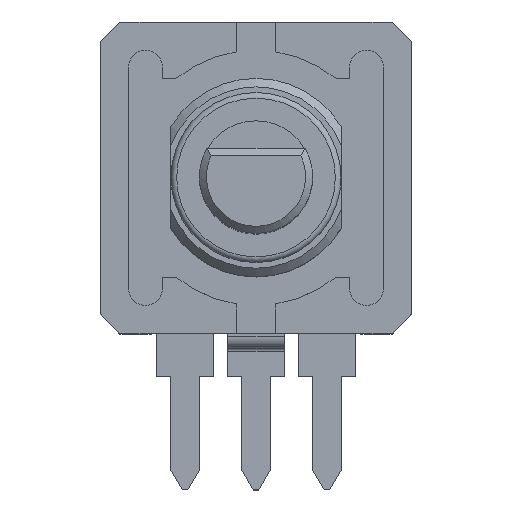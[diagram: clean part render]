
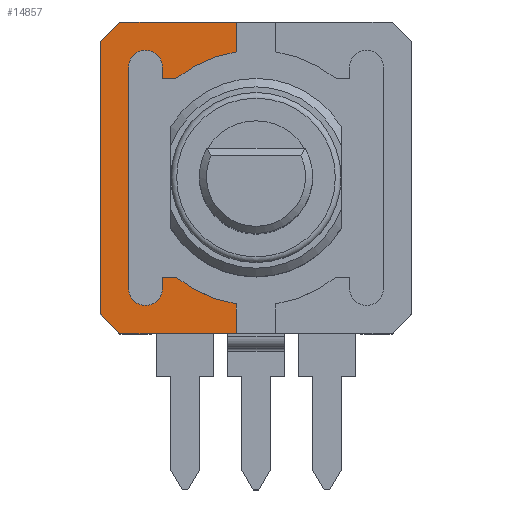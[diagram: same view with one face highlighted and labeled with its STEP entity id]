
A CAD part, top view. The second image highlights one B-rep face of the part: STEP entity #14857.
In plain terms, the highlighted planar face has unit normal (0, 0, 1).
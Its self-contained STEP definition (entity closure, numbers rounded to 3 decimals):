
#463=CIRCLE('',#15941,4.5);
#465=CIRCLE('',#15946,0.6);
#467=CIRCLE('',#15950,0.6);
#469=CIRCLE('',#15955,4.5);
#1323=FACE_OUTER_BOUND('',#2092,.T.);
#2092=EDGE_LOOP('',(#12754,#12755,#12756,#12757,#12758,#12759,#12760,#12761,
#12762,#12763,#12764,#12765,#12766,#12767,#12768,#12769));
#3612=LINE('',#23698,#5238);
#3634=LINE('',#23755,#5260);
#3713=LINE('',#23947,#5339);
#3716=LINE('',#23953,#5342);
#3720=LINE('',#23965,#5346);
#3724=LINE('',#23977,#5350);
#3727=LINE('',#23983,#5353);
#3731=LINE('',#23995,#5357);
#3758=LINE('',#24064,#5384);
#3760=LINE('',#24069,#5386);
#3761=LINE('',#24070,#5387);
#3762=LINE('',#24071,#5388);
#5238=VECTOR('',#19443,10.);
#5260=VECTOR('',#19487,10.);
#5339=VECTOR('',#19672,10.);
#5342=VECTOR('',#19677,10.);
#5346=VECTOR('',#19689,10.);
#5350=VECTOR('',#19701,10.);
#5353=VECTOR('',#19706,10.);
#5357=VECTOR('',#19718,10.);
#5384=VECTOR('',#19785,10.);
#5386=VECTOR('',#19791,10.);
#5387=VECTOR('',#19792,10.);
#5388=VECTOR('',#19793,10.);
#6582=VERTEX_POINT('',#23695);
#6583=VERTEX_POINT('',#23697);
#6606=VERTEX_POINT('',#23752);
#6607=VERTEX_POINT('',#23754);
#6652=VERTEX_POINT('',#23937);
#6653=VERTEX_POINT('',#23939);
#6655=VERTEX_POINT('',#23945);
#6657=VERTEX_POINT('',#23951);
#6659=VERTEX_POINT('',#23957);
#6661=VERTEX_POINT('',#23963);
#6663=VERTEX_POINT('',#23969);
#6665=VERTEX_POINT('',#23975);
#6667=VERTEX_POINT('',#23981);
#6669=VERTEX_POINT('',#23987);
#6671=VERTEX_POINT('',#23993);
#6694=VERTEX_POINT('',#24068);
#8546=EDGE_CURVE('',#6582,#6583,#3612,.T.);
#8572=EDGE_CURVE('',#6606,#6607,#3634,.T.);
#8662=EDGE_CURVE('',#6653,#6652,#463,.T.);
#8666=EDGE_CURVE('',#6652,#6655,#3713,.T.);
#8669=EDGE_CURVE('',#6655,#6657,#3716,.T.);
#8672=EDGE_CURVE('',#6657,#6659,#465,.T.);
#8675=EDGE_CURVE('',#6659,#6661,#3720,.T.);
#8678=EDGE_CURVE('',#6661,#6663,#467,.T.);
#8681=EDGE_CURVE('',#6663,#6665,#3724,.T.);
#8684=EDGE_CURVE('',#6665,#6667,#3727,.T.);
#8687=EDGE_CURVE('',#6667,#6669,#469,.T.);
#8690=EDGE_CURVE('',#6669,#6671,#3731,.T.);
#8725=EDGE_CURVE('',#6606,#6653,#3758,.T.);
#8727=EDGE_CURVE('',#6694,#6671,#3760,.T.);
#8728=EDGE_CURVE('',#6583,#6694,#3761,.T.);
#8729=EDGE_CURVE('',#6607,#6582,#3762,.T.);
#12754=ORIENTED_EDGE('',*,*,#8690,.T.);
#12755=ORIENTED_EDGE('',*,*,#8727,.F.);
#12756=ORIENTED_EDGE('',*,*,#8728,.F.);
#12757=ORIENTED_EDGE('',*,*,#8546,.F.);
#12758=ORIENTED_EDGE('',*,*,#8729,.F.);
#12759=ORIENTED_EDGE('',*,*,#8572,.F.);
#12760=ORIENTED_EDGE('',*,*,#8725,.T.);
#12761=ORIENTED_EDGE('',*,*,#8662,.T.);
#12762=ORIENTED_EDGE('',*,*,#8666,.T.);
#12763=ORIENTED_EDGE('',*,*,#8669,.T.);
#12764=ORIENTED_EDGE('',*,*,#8672,.T.);
#12765=ORIENTED_EDGE('',*,*,#8675,.T.);
#12766=ORIENTED_EDGE('',*,*,#8678,.T.);
#12767=ORIENTED_EDGE('',*,*,#8681,.T.);
#12768=ORIENTED_EDGE('',*,*,#8684,.T.);
#12769=ORIENTED_EDGE('',*,*,#8687,.T.);
#13391=PLANE('',#15978);
#14857=ADVANCED_FACE('',(#1323),#13391,.T.);
#15941=AXIS2_PLACEMENT_3D('',#23940,#19665,#19666);
#15946=AXIS2_PLACEMENT_3D('',#23959,#19683,#19684);
#15950=AXIS2_PLACEMENT_3D('',#23971,#19695,#19696);
#15955=AXIS2_PLACEMENT_3D('',#23989,#19712,#19713);
#15978=AXIS2_PLACEMENT_3D('',#24067,#19789,#19790);
#19443=DIRECTION('',(0.,1.,0.));
#19487=DIRECTION('',(-1.,0.,0.));
#19665=DIRECTION('center_axis',(0.,0.,
-1.));
#19666=DIRECTION('ref_axis',(0.629,0.778,0.));
#19672=DIRECTION('',(-1.,0.,0.));
#19677=DIRECTION('',(0.,-1.,0.));
#19683=DIRECTION('center_axis',(0.,0.,
-1.));
#19684=DIRECTION('ref_axis',(1.,0.,0.));
#19689=DIRECTION('',(0.,1.,0.));
#19695=DIRECTION('center_axis',(0.,0.,
-1.));
#19696=DIRECTION('ref_axis',(-1.,0.,0.));
#19701=DIRECTION('',(0.,-1.,0.));
#19706=DIRECTION('',(1.,0.,0.));
#19712=DIRECTION('center_axis',(0.,0.,
-1.));
#19713=DIRECTION('ref_axis',(0.156,-0.988,0.));
#19718=DIRECTION('',(0.,1.,0.));
#19785=DIRECTION('',(0.,1.,0.));
#19789=DIRECTION('center_axis',(0.,0.,
1.));
#19790=DIRECTION('ref_axis',(0.,1.,0.));
#19791=DIRECTION('',(1.,0.,0.));
#19792=DIRECTION('',(0.707,0.707,0.));
#19793=DIRECTION('',(-0.707,0.707,0.));
#23695=CARTESIAN_POINT('',(-26.521,-12.086,14.485));
#23697=CARTESIAN_POINT('',(-26.521,-2.486,14.485));
#23698=CARTESIAN_POINT('',(-26.521,-2.486,14.485));
#23752=CARTESIAN_POINT('',(-21.721,-12.786,14.485));
#23754=CARTESIAN_POINT('',(-25.821,-12.786,14.485));
#23755=CARTESIAN_POINT('',(-25.821,-12.786,14.485));
#23937=CARTESIAN_POINT('',(-23.85,-10.786,14.485));
#23939=CARTESIAN_POINT('',(-21.721,-11.731,14.485));
#23940=CARTESIAN_POINT('Origin',(-21.021,-7.286,14.485));
#23945=CARTESIAN_POINT('',(-24.321,-10.786,14.485));
#23947=CARTESIAN_POINT('',(-22.436,-10.786,14.485));
#23951=CARTESIAN_POINT('',(-24.321,-11.186,14.485));
#23953=CARTESIAN_POINT('',(-24.321,-9.036,14.485));
#23957=CARTESIAN_POINT('',(-25.521,-11.186,14.485));
#23959=CARTESIAN_POINT('Origin',(-24.921,-11.186,14.485));
#23963=CARTESIAN_POINT('',(-25.521,-3.386,14.485));
#23965=CARTESIAN_POINT('',(-25.521,-9.236,14.485));
#23969=CARTESIAN_POINT('',(-24.321,-3.386,14.485));
#23971=CARTESIAN_POINT('Origin',(-24.921,-3.386,14.485));
#23975=CARTESIAN_POINT('',(-24.321,-3.786,14.485));
#23977=CARTESIAN_POINT('',(-24.321,-5.336,14.485));
#23981=CARTESIAN_POINT('',(-23.85,-3.786,14.485));
#23983=CARTESIAN_POINT('',(-22.671,-3.786,14.485));
#23987=CARTESIAN_POINT('',(-21.721,-2.841,14.485));
#23989=CARTESIAN_POINT('Origin',(-21.021,-7.286,14.485));
#23993=CARTESIAN_POINT('',(-21.721,-1.786,14.485));
#23995=CARTESIAN_POINT('',(-21.721,-5.064,14.485));
#24064=CARTESIAN_POINT('',(-21.721,-10.036,14.485));
#24067=CARTESIAN_POINT('Origin',(-21.021,-7.286,14.485));
#24068=CARTESIAN_POINT('',(-25.821,-1.786,14.485));
#24069=CARTESIAN_POINT('',(-16.221,-1.786,14.485));
#24070=CARTESIAN_POINT('',(-25.821,-1.786,14.485));
#24071=CARTESIAN_POINT('',(-26.521,-12.086,14.485));
